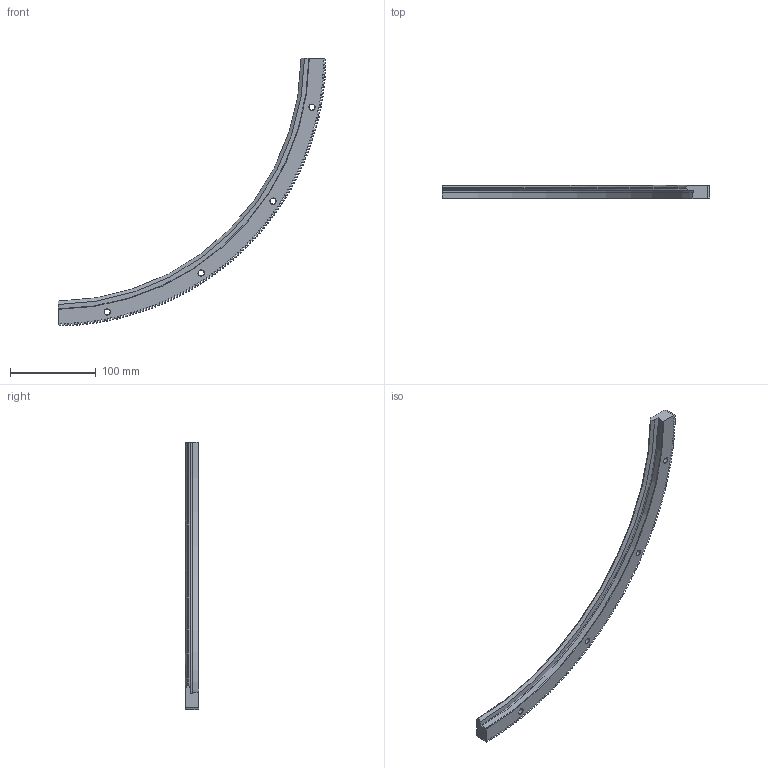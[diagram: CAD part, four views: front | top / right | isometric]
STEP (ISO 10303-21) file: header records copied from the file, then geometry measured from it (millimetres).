
FILE_DESCRIPTION( ( 'STEP AP203' ), '1' );
FILE_NAME( 'p:/temp/worker_21/temp/exporttempdir_776_601_Vdu1V/format_0/RIM 627 R90 P.stp', '2021-09-21T06:35:47', ( 'License CC BY-ND 4.0' ), ( 'CADENAS' ), ' ', 'PARTsolutions', ' ' );
FILE_SCHEMA( ( 'CONFIG_CONTROL_DESIGN' ) );
Length unit declared in the file: millimetre
Products named in the file (1): _RIM 627 R90 P
Bounding box: 311.73 x 15.5 x 311.73 mm (x, y, z)
Volume: 151752.9 mm3; surface area: 48448.4 mm2
Topology: 1 solids, 1 shells, 772 faces, 2294 edges, 1528 vertices
Faces by surface type: plane 506, cylinder 134, cone 131, torus 1
Full cylindrical faces by diameter (mm): 6.8 x4, 11 x4
Entity records: 25975 total; most frequent: CARTESIAN_POINT 5363, ORIENTED_EDGE 4564, DIRECTION 3973, EDGE_CURVE 2282, LINE 1625, VECTOR 1625, VERTEX_POINT 1528, AXIS2_PLACEMENT_3D 1174
